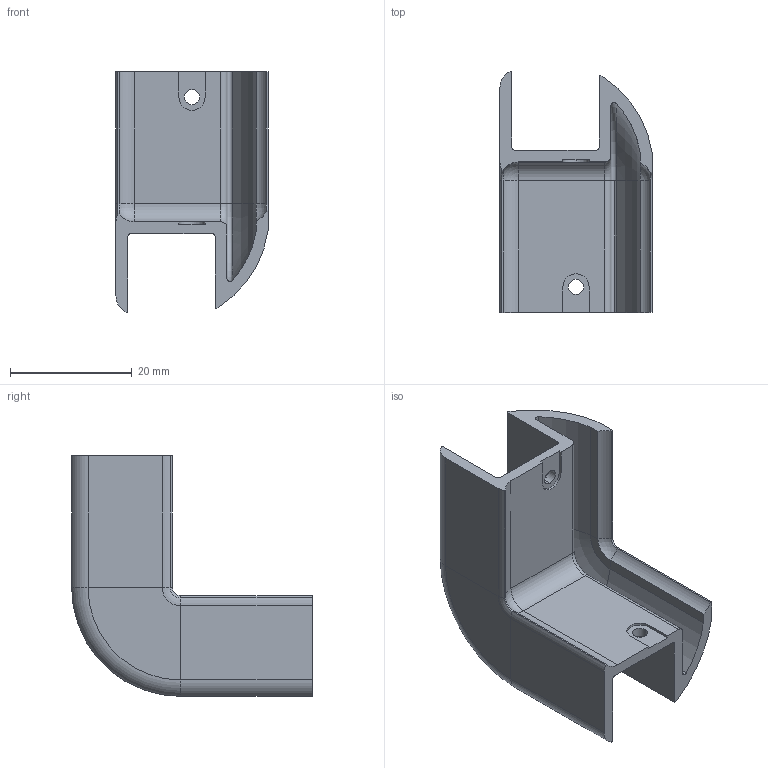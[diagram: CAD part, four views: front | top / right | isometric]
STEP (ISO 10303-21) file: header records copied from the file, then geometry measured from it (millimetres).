
FILE_DESCRIPTION (( 'STEP AP203' ), '1' );
FILE_NAME ('013.025.115.STEP', '2020-09-21T06:58:43', ( '' ), ( '' ), 'SwSTEP 2.0', 'SolidWorks 2018', '' );
FILE_SCHEMA (( 'CONFIG_CONTROL_DESIGN' ));
Length unit declared in the file: millimetre
Products named in the file (1): 013.025.115
Bounding box: 25 x 39.59 x 39.6 mm (x, y, z)
Volume: 6260.1 mm3; surface area: 6827.2 mm2
Topology: 1 solids, 1 shells, 89 faces, 214 edges, 126 vertices
Faces by surface type: cylinder 38, plane 36, torus 10, bspline 3, sphere 2
Entity records: 2661 total; most frequent: DIRECTION 473, CARTESIAN_POINT 470, ORIENTED_EDGE 426, EDGE_CURVE 213, AXIS2_PLACEMENT_3D 177, VERTEX_POINT 126, LINE 119, VECTOR 119
